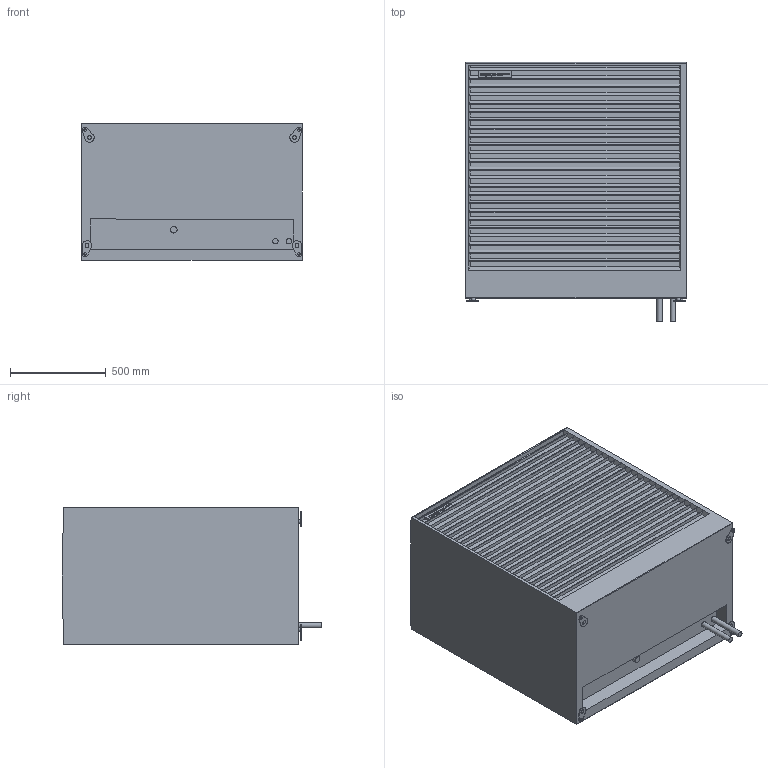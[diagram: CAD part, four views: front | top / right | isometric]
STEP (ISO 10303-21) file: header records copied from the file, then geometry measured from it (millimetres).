
FILE_DESCRIPTION (( 'STEP AP214' ), '1' );
FILE_NAME ('ADAPT 2 M,L_spodnji priklop.STEP', '2026-03-09T12:06:13', ( '' ), ( '' ), 'SwSTEP 2.0', 'SolidWorks 2024', '' );
FILE_SCHEMA (( 'AUTOMOTIVE_DESIGN' ));
Length unit declared in the file: millimetre
Products named in the file (1): ADAPT 2 M,L_spodnji priklop
Bounding box: 1150 x 1357.46 x 715 mm (x, y, z)
Volume: 945215579.9 mm3; surface area: 8981687.8 mm2
Topology: 1 solids, 1 shells, 539 faces, 1488 edges, 988 vertices
Faces by surface type: plane 454, bspline 56, cylinder 29
Full cylindrical faces by diameter (mm): 13 x4, 19 x4, 28 x2, 34.029 x1
Entity records: 25225 total; most frequent: CARTESIAN_POINT 5973, ORIENTED_EDGE 2930, DIRECTION 2361, EDGE_CURVE 1465, VECTOR 1301, LINE 1301, VERTEX_POINT 980, EDGE_LOOP 599
